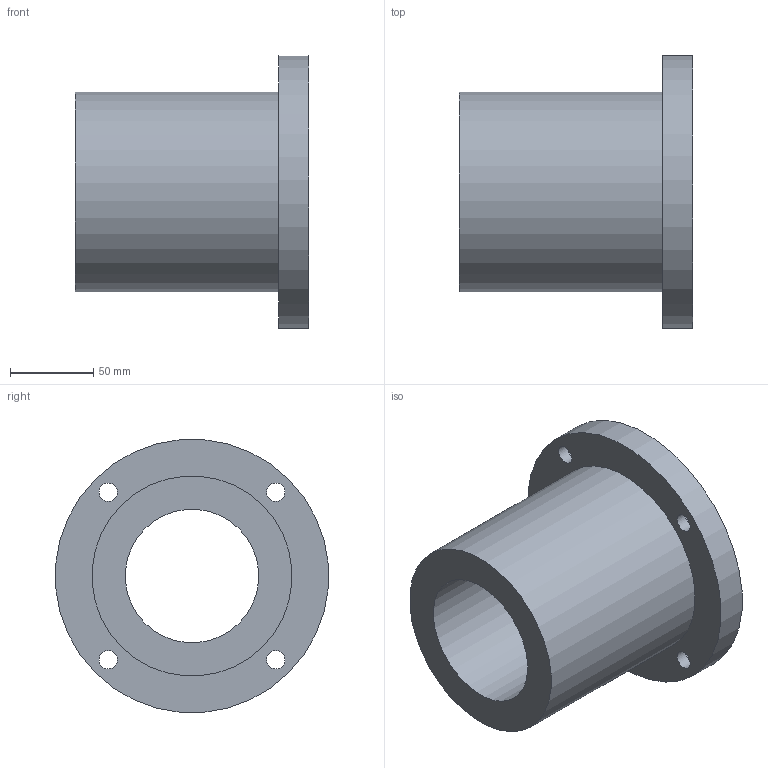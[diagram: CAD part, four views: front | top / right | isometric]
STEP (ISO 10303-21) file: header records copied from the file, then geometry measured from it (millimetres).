
FILE_DESCRIPTION(/* description */ (''),/* implementation_level */ '2;1');
FILE_NAME(/* name */ 'LMF80UU',/* time_stamp */ '2019-07-03T09:08:53+02:00',/* author */ ('VĂ©gh MĂˇtĂ©'),/* organization */ ('Bearing Kft'),/* preprocessor_version */ 'ST-DEVELOPER v16.7',/* originating_system */ 'DEX',/* authorisation */ $);
FILE_SCHEMA (('AUTOMOTIVE_DESIGN {1 0 10303 214 3 1 1}'));
Length unit declared in the file: millimetre
Products named in the file (1): LMF80UU
Bounding box: 140 x 163.38 x 163.38 mm (x, y, z)
Volume: 1043565.3 mm3; surface area: 125281.8 mm2
Topology: 1 solids, 1 shells, 315 faces, 780 edges, 520 vertices
Faces by surface type: plane 241, bspline 63, cylinder 11
Full cylindrical faces by diameter (mm): 11 x4, 17 x4, 80 x1, 120 x1, 164 x1
Entity records: 13156 total; most frequent: CARTESIAN_POINT 6071, ORIENTED_EDGE 1528, DIRECTION 1166, EDGE_CURVE 764, LINE 616, VECTOR 616, VERTEX_POINT 520, EDGE_LOOP 394
